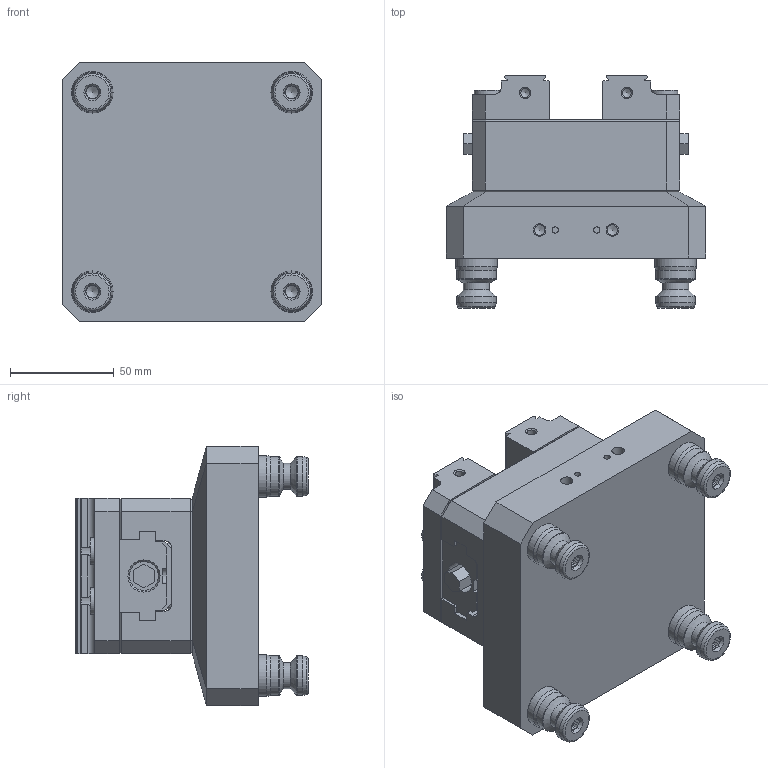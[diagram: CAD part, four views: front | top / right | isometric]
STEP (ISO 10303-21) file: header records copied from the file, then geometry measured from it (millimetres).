
FILE_DESCRIPTION (( 'STEP AP214' ), '1' );
FILE_NAME ('A96-V75100X_WEBSITE.STEP', '2025-08-14T20:09:33', ( '' ), ( '' ), 'SwSTEP 2.0', 'SolidWorks 2024', '' );
FILE_SCHEMA (( 'AUTOMOTIVE_DESIGN' ));
Length unit declared in the file: millimetre
Products named in the file (20): A96-V75100X_WEBSITE; V75100X-3_WEBSITE; HW.76232_WEBSITE_91290A418; LP8_WEBSITE_LP8; V75100X-2_WEBSITE_V75100X-2L OP2; V75100-4_WEBSITE; D_39874.CPSS_WEBSITE_91390A162; HW.76252_WEBSITE_91290A442; V75100X_WEBSITE; D_A96-V75100X-1_WEBSITE; M4C_WEBSITE; HW.76048_WEBSITE_91290A138; SB3V_WEBSITE_FINISHED PART; D_PS20F-1_WEBSITE_HARD TURN; V75100-6_WEBSITE; M5x10.DP_WEBSITE_93600A511; V75100X-2_WEBSITE_V75100X-2R OP2; V75100X-1_WEBSITE_FINAL; D_PS20F_WEBSITE; V75100X-5_WEBSITE_HARD OP2
Assembly tree (35 placements, depth 3):
  A96-V75100X_WEBSITE
    D_A96-V75100X-1_WEBSITE
    V75100X_WEBSITE
      V75100X-1_WEBSITE_FINAL
      V75100X-2_WEBSITE_V75100X-2L OP2
      V75100X-2_WEBSITE_V75100X-2R OP2
      V75100X-3_WEBSITE
      V75100-4_WEBSITE
      V75100X-5_WEBSITE_HARD OP2  x2
      V75100-6_WEBSITE  x2
      HW.76048_WEBSITE_91290A138
      HW.76232_WEBSITE_91290A418  x8
      M5x10.DP_WEBSITE_93600A511  x2
      SB3V_WEBSITE_FINISHED PART  x2
      M4C_WEBSITE
      LP8_WEBSITE_LP8  x2
      HW.76252_WEBSITE_91290A442  x2
    D_PS20F_WEBSITE  x4
      D_PS20F-1_WEBSITE_HARD TURN
      D_39874.CPSS_WEBSITE_91390A162
Bounding box: 125 x 111.88 x 125 mm (x, y, z)
Volume: 792939 mm3; surface area: 165031.9 mm2
Topology: 36 solids, 36 shells, 968 faces, 2247 edges, 1422 vertices
Faces by surface type: plane 546, cylinder 207, cone 191, torus 24
Full cylindrical faces by diameter (mm): 3 x2, 3.03 x2, 3.124 x1, 3.3 x2, 3.454 x1, 4 x3, 4.2 x7, 4.5 x1, 4.915 x4, 4.999 x2, 5 x8, 5.013 x2, 5.017 x2, 5.052 x2, 5.969 x1, 6 x2, 6.147 x4, 6.35 x1, 6.8 x14, 7 x1, 7.4 x1, 8 x12, 8.014 x3, 8.024 x3, 8.5 x12, 9 x4, 9.5 x2, 10 x8, 12.009 x4, 12.497 x4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
Entity records: 18226 total; most frequent: CARTESIAN_POINT 2762, DIRECTION 2482, ORIENTED_EDGE 2050, EDGE_CURVE 1025, AXIS2_PLACEMENT_3D 931, EDGE_LOOP 810, VERTEX_POINT 753, FACE_OUTER_BOUND 655
